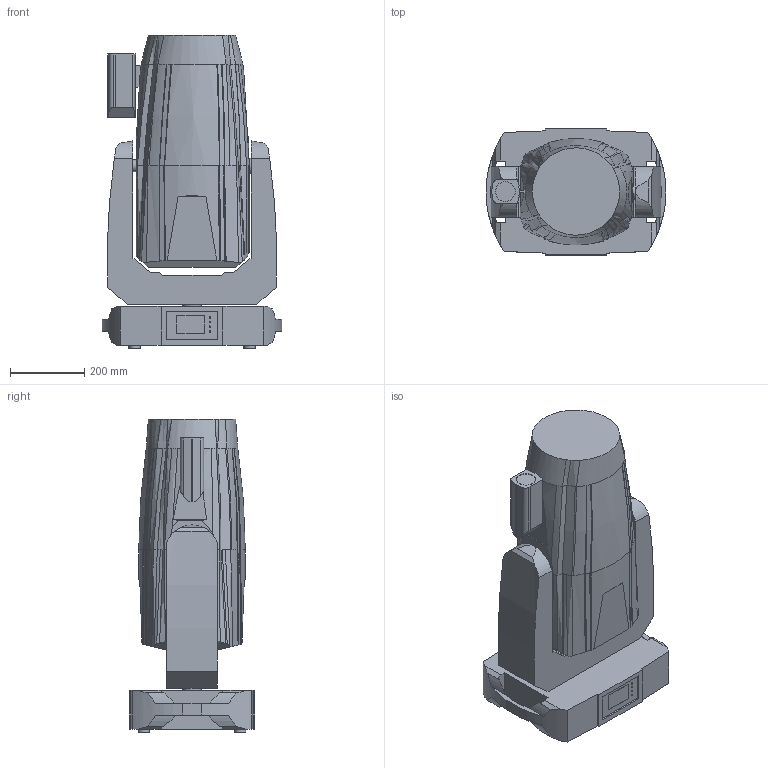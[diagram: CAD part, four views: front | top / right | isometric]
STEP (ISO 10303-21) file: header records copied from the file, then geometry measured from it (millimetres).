
FILE_DESCRIPTION(/* description */ ('Unknown'),/* implementation_level */ '2;1');
FILE_NAME(/* name */ '3D_ForteFS_GDTF',/* time_stamp */ '2021-01-26T11:57:00+01:00',/* author */ ('Ing.Rostislav HĂˇba'),/* organization */ ('ROBE lighting'),/* preprocessor_version */ 'ST-DEVELOPER v16.7',/* originating_system */ 'Solid Edge',/* authorisation */ 'Unknown');
FILE_SCHEMA (('AUTOMOTIVE_DESIGN {1 0 10303 214 3 1 1}'));
Length unit declared in the file: millimetre
Products named in the file (4): 3D_ForteFS_GDTF; BMFL_base; Arm Forte; Head ForteFS
Assembly tree (3 placements, depth 2):
  3D_ForteFS_GDTF
    BMFL_base
    Arm Forte
    Head ForteFS
Bounding box: 482.55 x 339.31 x 844.16 mm (x, y, z)
Volume: 67032854.5 mm3; surface area: 1719480.1 mm2
Topology: 3 solids, 3 shells, 305 faces, 770 edges, 499 vertices
Faces by surface type: plane 134, bspline 113, cylinder 58
Full cylindrical faces by diameter (mm): 4.153 x4, 10 x10, 20.926 x6, 30 x4, 32 x1, 40.237 x1, 50 x1, 51 x1, 53 x1
Entity records: 10554 total; most frequent: CARTESIAN_POINT 3857, ORIENTED_EDGE 1478, DIRECTION 1085, EDGE_CURVE 739, VERTEX_POINT 497, AXIS2_PLACEMENT_3D 374, EDGE_LOOP 368, FACE_BOUND 368
